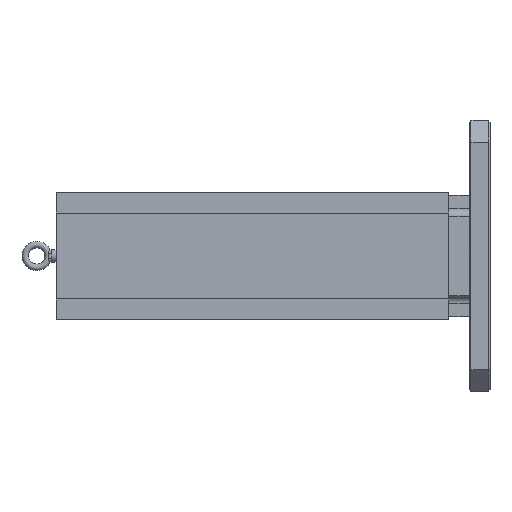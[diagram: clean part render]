
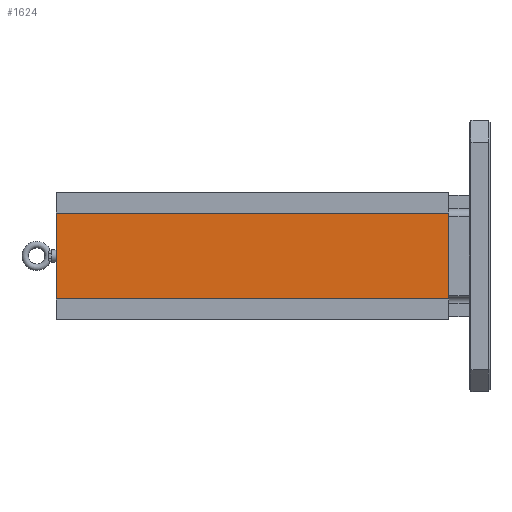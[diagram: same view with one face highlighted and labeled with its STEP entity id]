
A CAD part, left-side view. The second image highlights one B-rep face of the part: STEP entity #1624.
In plain terms, the highlighted planar face has unit normal (-1, 0, 0).
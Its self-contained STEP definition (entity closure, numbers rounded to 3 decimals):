
#68 = AXIS2_PLACEMENT_3D ( 'NONE', #6856, #2041, #2230 ) ;
#130 = CARTESIAN_POINT ( 'NONE',  ( -116.992, 38.1, 79.273 ) ) ;
#1046 = ORIENTED_EDGE ( 'NONE', *, *, #8469, .F. ) ;
#1426 = VERTEX_POINT ( 'NONE', #8791 ) ;
#1624 = ADVANCED_FACE ( 'NONE', ( #11475 ), #3166, .F. ) ;
#2041 = DIRECTION ( 'NONE',  ( 1., 0., 0. ) ) ;
#2230 = DIRECTION ( 'NONE',  ( 0., 0., -1. ) ) ;
#2633 = LINE ( 'NONE', #8557, #6088 ) ;
#3166 = PLANE ( 'NONE',  #68 ) ;
#3443 = EDGE_LOOP ( 'NONE', ( #9430, #7094, #1046, #7464 ) ) ;
#4186 = DIRECTION ( 'NONE',  ( 0., 0., -1. ) ) ;
#4711 = DIRECTION ( 'NONE',  ( 0., -1., 0. ) ) ;
#4964 = DIRECTION ( 'NONE',  ( 0., 0., 1. ) ) ;
#5003 = VERTEX_POINT ( 'NONE', #9673 ) ;
#6088 = VECTOR ( 'NONE', #8669, 1000. ) ;
#6168 = VECTOR ( 'NONE', #4964, 1000. ) ;
#6634 = VERTEX_POINT ( 'NONE', #130 ) ;
#6856 = CARTESIAN_POINT ( 'NONE',  ( -116.992, 762., -79.273 ) ) ;
#6964 = CARTESIAN_POINT ( 'NONE',  ( -116.992, 762., -79.273 ) ) ;
#7094 = ORIENTED_EDGE ( 'NONE', *, *, #7631, .F. ) ;
#7179 = CARTESIAN_POINT ( 'NONE',  ( -116.992, 762., 79.273 ) ) ;
#7436 = CARTESIAN_POINT ( 'NONE',  ( -116.992, 762., -79.273 ) ) ;
#7446 = VERTEX_POINT ( 'NONE', #7179 ) ;
#7464 = ORIENTED_EDGE ( 'NONE', *, *, #11509, .T. ) ;
#7631 = EDGE_CURVE ( 'NONE', #7446, #6634, #2633, .T. ) ;
#8159 = EDGE_CURVE ( 'NONE', #6634, #1426, #8777, .T. ) ;
#8469 = EDGE_CURVE ( 'NONE', #5003, #7446, #10731, .T. ) ;
#8541 = VECTOR ( 'NONE', #4711, 1000. ) ;
#8557 = CARTESIAN_POINT ( 'NONE',  ( -116.992, 762., 79.273 ) ) ;
#8669 = DIRECTION ( 'NONE',  ( 0., -1., 0. ) ) ;
#8777 = LINE ( 'NONE', #11592, #9236 ) ;
#8791 = CARTESIAN_POINT ( 'NONE',  ( -116.992, 38.1, -79.273 ) ) ;
#9236 = VECTOR ( 'NONE', #4186, 1000. ) ;
#9430 = ORIENTED_EDGE ( 'NONE', *, *, #8159, .F. ) ;
#9673 = CARTESIAN_POINT ( 'NONE',  ( -116.992, 762., -79.273 ) ) ;
#10273 = LINE ( 'NONE', #7436, #8541 ) ;
#10731 = LINE ( 'NONE', #6964, #6168 ) ;
#11475 = FACE_OUTER_BOUND ( 'NONE', #3443, .T. ) ;
#11509 = EDGE_CURVE ( 'NONE', #5003, #1426, #10273, .T. ) ;
#11592 = CARTESIAN_POINT ( 'NONE',  ( -116.992, 38.1, -79.273 ) ) ;
